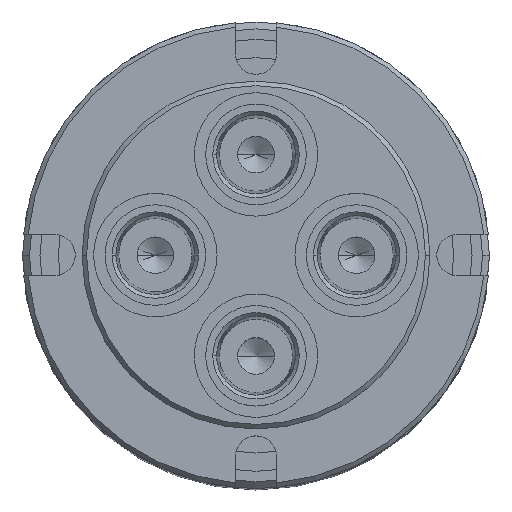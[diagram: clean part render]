
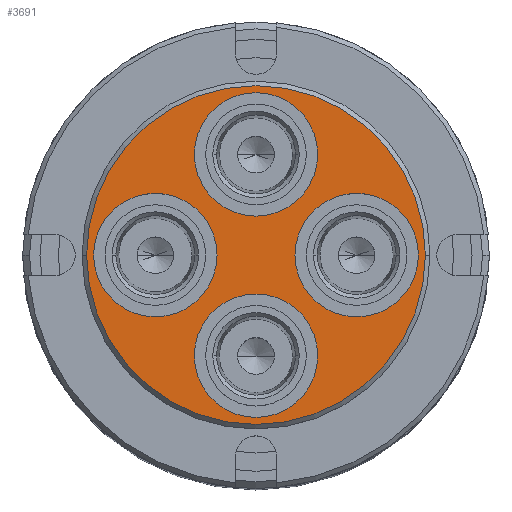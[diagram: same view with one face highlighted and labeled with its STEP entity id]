
A CAD part, top view. The second image highlights one B-rep face of the part: STEP entity #3691.
In plain terms, the highlighted planar face has unit normal (0, 0, 1).
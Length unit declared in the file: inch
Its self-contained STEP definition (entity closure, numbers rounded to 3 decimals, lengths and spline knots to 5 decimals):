
#12 = EDGE_CURVE ( 'NONE', #3004, #2889, #496, .T. ) ;
#77 = EDGE_CURVE ( 'NONE', #2889, #3004, #809, .T. ) ;
#106 = EDGE_CURVE ( 'NONE', #2964, #2987, #689, .T. ) ;
#185 = EDGE_CURVE ( 'NONE', #2900, #2890, #695, .T. ) ;
#215 = EDGE_CURVE ( 'NONE', #2890, #2900, #980, .T. ) ;
#227 = EDGE_CURVE ( 'NONE', #2987, #2964, #937, .T. ) ;
#248 = EDGE_CURVE ( 'NONE', #2901, #2956, #912, .T. ) ;
#312 = EDGE_CURVE ( 'NONE', #2906, #3037, #851, .T. ) ;
#375 = AXIS2_PLACEMENT_3D ( 'NONE', #5423, #5424, #5425 ) ;
#394 = AXIS2_PLACEMENT_3D ( 'NONE', #6224, #6225, #6226 ) ;
#397 = AXIS2_PLACEMENT_3D ( 'NONE', #6498, #6499, #6500 ) ;
#421 = AXIS2_PLACEMENT_3D ( 'NONE', #6760, #6761, #6762 ) ;
#486 = AXIS2_PLACEMENT_3D ( 'NONE', #6389, #6390, #6391 ) ;
#496 = CIRCLE ( 'NONE', #375, 0.4215 ) ;
#555 = AXIS2_PLACEMENT_3D ( 'NONE', #5684, #5685, #5686 ) ;
#567 = AXIS2_PLACEMENT_3D ( 'NONE', #6316, #6317, #6318 ) ;
#689 = CIRCLE ( 'NONE', #783, 0.4215 ) ;
#695 = CIRCLE ( 'NONE', #394, 1.1565 ) ;
#783 = AXIS2_PLACEMENT_3D ( 'NONE', #5894, #5895, #5896 ) ;
#809 = CIRCLE ( 'NONE', #555, 0.4215 ) ;
#851 = CIRCLE ( 'NONE', #421, 0.4215 ) ;
#912 = CIRCLE ( 'NONE', #397, 0.4215 ) ;
#937 = CIRCLE ( 'NONE', #486, 0.4215 ) ;
#980 = CIRCLE ( 'NONE', #567, 1.1565 ) ;
#1927 = FACE_BOUND ( 'NONE', #5333, .T. ) ;
#1931 = FACE_OUTER_BOUND ( 'NONE', #2449, .T. ) ;
#1932 = FACE_BOUND ( 'NONE', #2447, .T. ) ;
#1933 = PLANE ( 'NONE',  #3418 ) ;
#1934 = FACE_BOUND ( 'NONE', #2331, .T. ) ;
#1935 = CARTESIAN_POINT ( 'NONE',  ( 0., 0., 0. ) ) ;
#1936 = FACE_BOUND ( 'NONE', #4120, .T. ) ;
#1937 = DIRECTION ( 'NONE',  ( 0., 0., -1. ) ) ;
#1938 = DIRECTION ( 'NONE',  ( -1., 0., 0. ) ) ;
#1944 = CARTESIAN_POINT ( 'NONE',  ( 0., -0.6875, 0. ) ) ;
#1945 = DIRECTION ( 'NONE',  ( 0., 0., 1. ) ) ;
#1946 = DIRECTION ( 'NONE',  ( -1., 0., 0. ) ) ;
#2064 = ORIENTED_EDGE ( 'NONE', *, *, #106, .F. ) ;
#2077 = ORIENTED_EDGE ( 'NONE', *, *, #185, .T. ) ;
#2098 = ORIENTED_EDGE ( 'NONE', *, *, #12, .F. ) ;
#2123 = ORIENTED_EDGE ( 'NONE', *, *, #215, .T. ) ;
#2128 = ORIENTED_EDGE ( 'NONE', *, *, #77, .F. ) ;
#2132 = ORIENTED_EDGE ( 'NONE', *, *, #312, .F. ) ;
#2139 = ORIENTED_EDGE ( 'NONE', *, *, #3849, .F. ) ;
#2148 = ORIENTED_EDGE ( 'NONE', *, *, #227, .F. ) ;
#2160 = ORIENTED_EDGE ( 'NONE', *, *, #248, .F. ) ;
#2331 = EDGE_LOOP ( 'NONE', ( #2148, #2064 ) ) ;
#2447 = EDGE_LOOP ( 'NONE', ( #2132, #2139 ) ) ;
#2449 = EDGE_LOOP ( 'NONE', ( #2077, #2123 ) ) ;
#2889 = VERTEX_POINT ( 'NONE', #7066 ) ;
#2890 = VERTEX_POINT ( 'NONE', #7067 ) ;
#2900 = VERTEX_POINT ( 'NONE', #7077 ) ;
#2901 = VERTEX_POINT ( 'NONE', #7078 ) ;
#2906 = VERTEX_POINT ( 'NONE', #7083 ) ;
#2956 = VERTEX_POINT ( 'NONE', #7130 ) ;
#2964 = VERTEX_POINT ( 'NONE', #7138 ) ;
#2987 = VERTEX_POINT ( 'NONE', #7160 ) ;
#3004 = VERTEX_POINT ( 'NONE', #7177 ) ;
#3037 = VERTEX_POINT ( 'NONE', #7210 ) ;
#3179 = AXIS2_PLACEMENT_3D ( 'NONE', #5150, #5151, #5152 ) ;
#3180 = AXIS2_PLACEMENT_3D ( 'NONE', #1944, #1945, #1946 ) ;
#3304 = CIRCLE ( 'NONE', #3179, 0.4215 ) ;
#3373 = CIRCLE ( 'NONE', #3180, 0.4215 ) ;
#3418 = AXIS2_PLACEMENT_3D ( 'NONE', #1935, #1937, #1938 ) ;
#3691 = ADVANCED_FACE ( 'NONE', ( #1932, #1927, #1934, #1936, #1931 ), #1933, .F. ) ;
#3692 = EDGE_CURVE ( 'NONE', #2956, #2901, #3373, .T. ) ;
#3773 = ORIENTED_EDGE ( 'NONE', *, *, #3692, .F. ) ;
#3849 = EDGE_CURVE ( 'NONE', #3037, #2906, #3304, .T. ) ;
#4120 = EDGE_LOOP ( 'NONE', ( #2128, #2098 ) ) ;
#5150 = CARTESIAN_POINT ( 'NONE',  ( -0.6875, 0., 0. ) ) ;
#5151 = DIRECTION ( 'NONE',  ( 0., 0., 1. ) ) ;
#5152 = DIRECTION ( 'NONE',  ( 0., 1., 0. ) ) ;
#5333 = EDGE_LOOP ( 'NONE', ( #3773, #2160 ) ) ;
#5423 = CARTESIAN_POINT ( 'NONE',  ( 0., 0.6875, 0. ) ) ;
#5424 = DIRECTION ( 'NONE',  ( 0., 0., 1. ) ) ;
#5425 = DIRECTION ( 'NONE',  ( 1., 0., 0. ) ) ;
#5684 = CARTESIAN_POINT ( 'NONE',  ( 0., 0.6875, 0. ) ) ;
#5685 = DIRECTION ( 'NONE',  ( 0., 0., 1. ) ) ;
#5686 = DIRECTION ( 'NONE',  ( 1., 0., 0. ) ) ;
#5894 = CARTESIAN_POINT ( 'NONE',  ( 0.6875, 0., 0. ) ) ;
#5895 = DIRECTION ( 'NONE',  ( 0., 0., 1. ) ) ;
#5896 = DIRECTION ( 'NONE',  ( 0., -1., 0. ) ) ;
#6224 = CARTESIAN_POINT ( 'NONE',  ( 0., 0., 0. ) ) ;
#6225 = DIRECTION ( 'NONE',  ( 0., 0., 1. ) ) ;
#6226 = DIRECTION ( 'NONE',  ( -1., 0., 0. ) ) ;
#6316 = CARTESIAN_POINT ( 'NONE',  ( 0., 0., 0. ) ) ;
#6317 = DIRECTION ( 'NONE',  ( 0., 0., 1. ) ) ;
#6318 = DIRECTION ( 'NONE',  ( -1., 0., 0. ) ) ;
#6389 = CARTESIAN_POINT ( 'NONE',  ( 0.6875, 0., 0. ) ) ;
#6390 = DIRECTION ( 'NONE',  ( 0., 0., 1. ) ) ;
#6391 = DIRECTION ( 'NONE',  ( 0., -1., 0. ) ) ;
#6498 = CARTESIAN_POINT ( 'NONE',  ( 0., -0.6875, 0. ) ) ;
#6499 = DIRECTION ( 'NONE',  ( 0., 0., 1. ) ) ;
#6500 = DIRECTION ( 'NONE',  ( -1., 0., 0. ) ) ;
#6760 = CARTESIAN_POINT ( 'NONE',  ( -0.6875, 0., 0. ) ) ;
#6761 = DIRECTION ( 'NONE',  ( 0., 0., 1. ) ) ;
#6762 = DIRECTION ( 'NONE',  ( 0., 1., 0. ) ) ;
#7066 = CARTESIAN_POINT ( 'NONE',  ( 0.4215, 0.6875, 0. ) ) ;
#7067 = CARTESIAN_POINT ( 'NONE',  ( 1.1565, 0., 0. ) ) ;
#7077 = CARTESIAN_POINT ( 'NONE',  ( -1.1565, 0., 0. ) ) ;
#7078 = CARTESIAN_POINT ( 'NONE',  ( -0.4215, -0.6875, 0. ) ) ;
#7083 = CARTESIAN_POINT ( 'NONE',  ( -0.266, 0., 0. ) ) ;
#7130 = CARTESIAN_POINT ( 'NONE',  ( 0.4215, -0.6875, 0. ) ) ;
#7138 = CARTESIAN_POINT ( 'NONE',  ( 0.266, 0., 0. ) ) ;
#7160 = CARTESIAN_POINT ( 'NONE',  ( 1.109, 0., 0. ) ) ;
#7177 = CARTESIAN_POINT ( 'NONE',  ( -0.4215, 0.6875, 0. ) ) ;
#7210 = CARTESIAN_POINT ( 'NONE',  ( -1.109, 0., 0. ) ) ;
